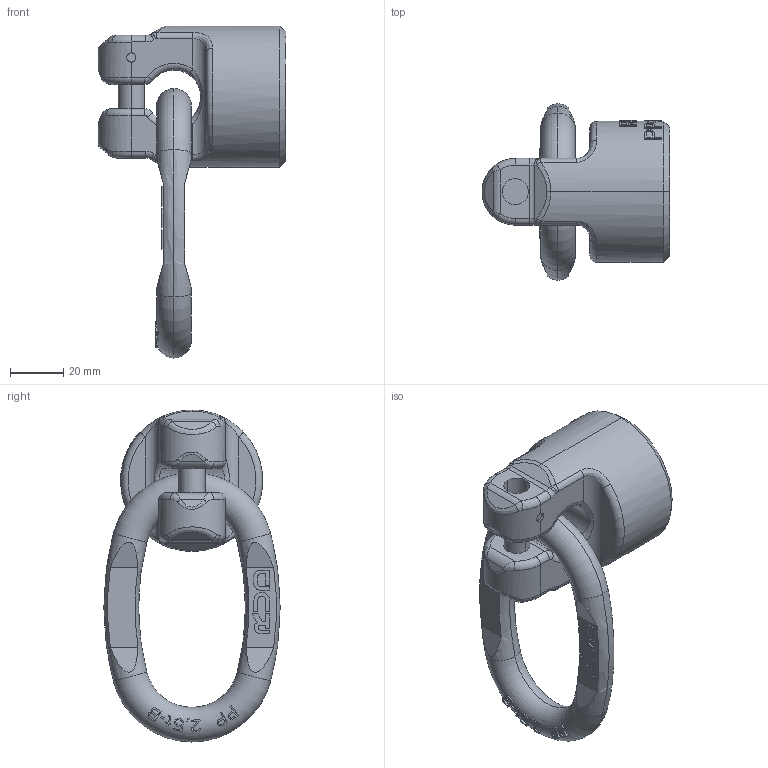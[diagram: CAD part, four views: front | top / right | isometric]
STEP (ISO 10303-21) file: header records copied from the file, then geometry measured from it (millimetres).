
FILE_DESCRIPTION((''),'2;1');
FILE_NAME('001-M31347-P-50_ASM','2018-04-26T',('Anja.Joas'),(''),'PRO/ENGINEER BY PARAMETRIC TECHNOLOGY CORPORATION, 2011490','PRO/ENGINEER BY PARAMETRIC TECHNOLOGY CORPORATION, 2011490','');
FILE_SCHEMA(('CONFIG_CONTROL_DESIGN'));
Length unit declared in the file: millimetre
Products named in the file (3): 001-M31347-P-20_AF0; 001-M31290-002; 001-M31347-P-50_ASM
Assembly tree (2 placements, depth 2):
  001-M31347-P-50_ASM
    001-M31347-P-20_AF0
    001-M31290-002
Bounding box: 70.5 x 66.08 x 124.5 mm (x, y, z)
Volume: 126919.1 mm3; surface area: 24860.3 mm2
Topology: 2 solids, 2 shells, 600 faces, 1614 edges, 1050 vertices
Faces by surface type: plane 475, cylinder 62, bspline 30, torus 30, cone 2, extrusion 1
Entity records: 20543 total; most frequent: CARTESIAN_POINT 6328, ORIENTED_EDGE 3228, DIRECTION 2510, EDGE_CURVE 1614, VERTEX_POINT 1050, VECTOR 842, LINE 841, AXIS2_PLACEMENT_3D 834
